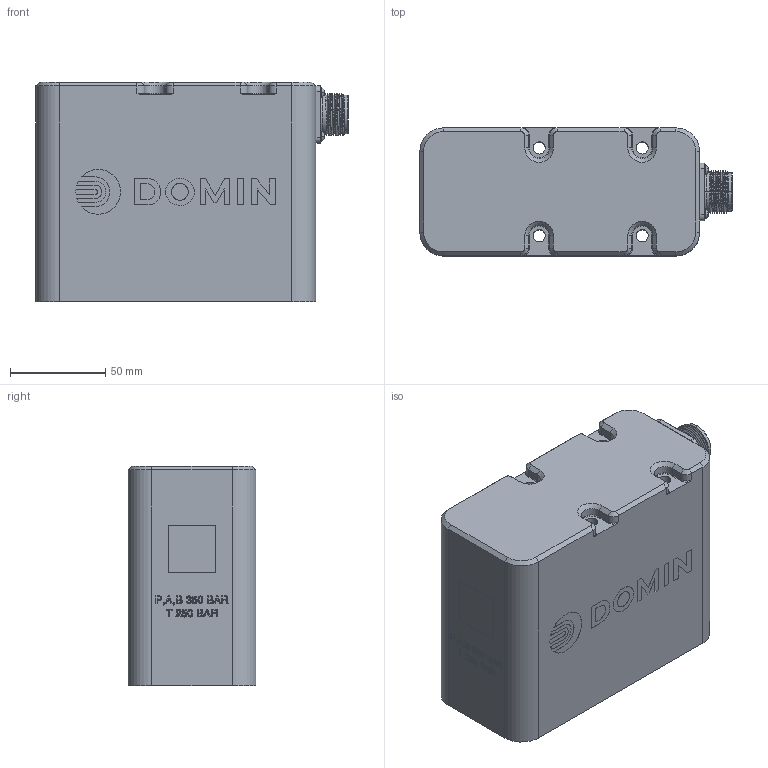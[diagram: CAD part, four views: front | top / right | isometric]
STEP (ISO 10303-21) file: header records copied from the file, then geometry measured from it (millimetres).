
FILE_DESCRIPTION((''),'2;1');
FILE_NAME('BT103427_ISS_1_0_0','2023-02-01T15:45:27',('EvanLockwood'),(''),'CREO PARAMETRIC BY PTC INC, 2022284','CREO PARAMETRIC BY PTC INC, 2022284','');
FILE_SCHEMA(('CONFIG_CONTROL_DESIGN'));
Length unit declared in the file: millimetre
Products named in the file (1): BT103427_ISS_1_0_0
Bounding box: 163.64 x 67 x 115.2 mm (x, y, z)
Volume: 1097246.2 mm3; surface area: 79627.9 mm2
Topology: 1 solids, 5 shells, 924 faces, 2363 edges, 1518 vertices
Faces by surface type: plane 390, cylinder 201, extrusion 194, cone 64, torus 47, bspline 28
Entity records: 32903 total; most frequent: CARTESIAN_POINT 11073, ORIENTED_EDGE 4690, DIRECTION 4059, EDGE_CURVE 2345, VERTEX_POINT 1518, VECTOR 1463, AXIS2_PLACEMENT_3D 1298, LINE 1269
